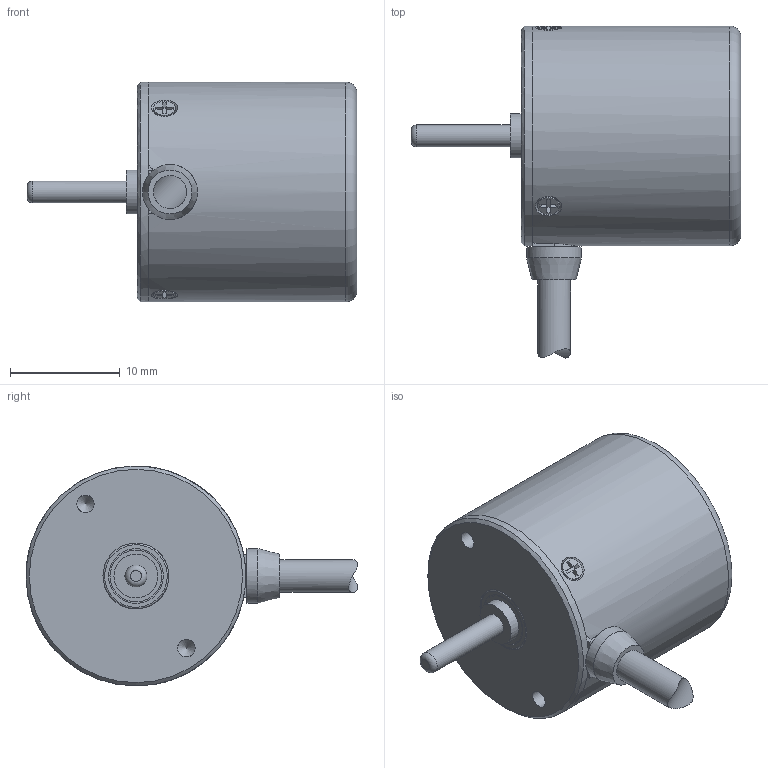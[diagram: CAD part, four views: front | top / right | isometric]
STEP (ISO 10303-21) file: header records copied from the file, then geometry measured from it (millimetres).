
FILE_DESCRIPTION(('STEP AP214'),'1');
FILE_NAME('L2D02 MES-12P.stp','2025-03-17T04:48:49',(' '),(' '),'Spatial InterOp 3D',' ',' ');
FILE_SCHEMA(('AUTOMOTIVE_DESIGN { 1 0 10303 214 1 1 1 1 }'));
Length unit declared in the file: millimetre
Products named in the file (1): L2D02 MES-12P
Bounding box: 30 x 30.2 x 20 mm (x, y, z)
Volume: 6374.3 mm3; surface area: 2192 mm2
Topology: 1 solids, 6 shells, 118 faces, 282 edges, 184 vertices
Faces by surface type: plane 64, cylinder 39, cone 11, torus 4
Full cylindrical faces by diameter (mm): 1.5 x3, 1.6 x4, 2 x5, 3 x1, 3.28 x2, 4 x1, 4.72 x1, 4.976 x1, 5 x1, 6 x1, 20 x2
Entity records: 4531 total; most frequent: CARTESIAN_POINT 1019, DIRECTION 509, ORIENTED_EDGE 442, EDGE_CURVE 221, AXIS2_PLACEMENT_3D 195, EDGE_LOOP 172, VERTEX_POINT 161, FACE_OUTER_BOUND 144
